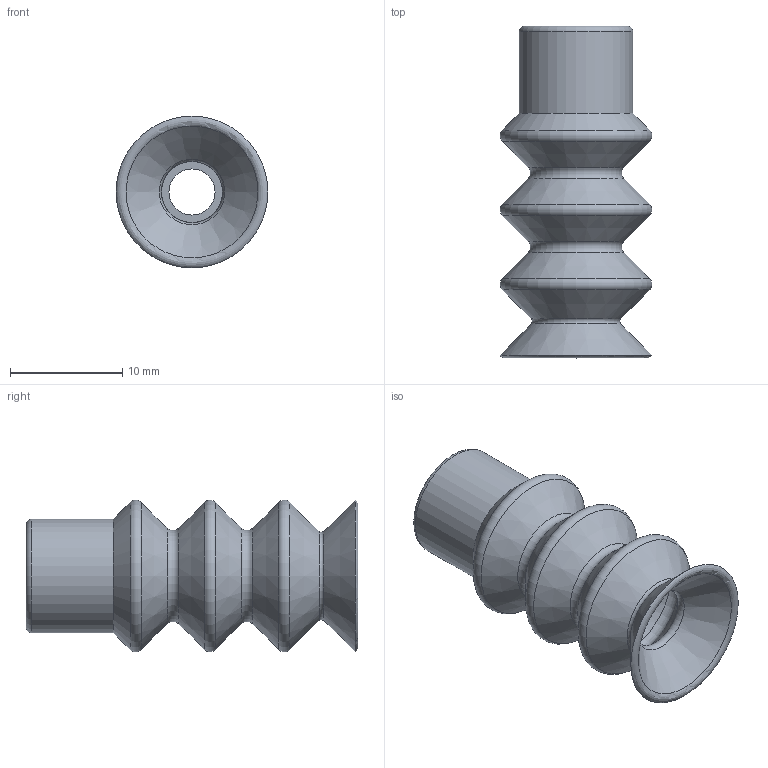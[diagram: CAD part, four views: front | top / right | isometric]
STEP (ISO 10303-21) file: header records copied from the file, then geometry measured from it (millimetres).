
FILE_DESCRIPTION (( 'STEP AP214' ), '1' );
FILE_NAME ('35B.014.002.STEP', '2025-10-20T14:32:32', ( '' ), ( '' ), 'SwSTEP 2.0', 'SolidWorks 2025', '' );
FILE_SCHEMA (( 'AUTOMOTIVE_DESIGN' ));
Length unit declared in the file: millimetre
Products named in the file (1): 35B.014.002
Bounding box: 13.5 x 29.5 x 13.5 mm (x, y, z)
Volume: 1377.1 mm3; surface area: 2216.7 mm2
Topology: 1 solids, 1 shells, 32 faces, 64 edges, 34 vertices
Faces by surface type: cone 14, torus 14, plane 2, cylinder 2
Full cylindrical faces by diameter (mm): 4.1 x1, 10.1 x1
Entity records: 701 total; most frequent: CARTESIAN_POINT 130, DIRECTION 128, ORIENTED_EDGE 64, EDGE_LOOP 64, AXIS2_PLACEMENT_3D 64, FACE_OUTER_BOUND 48, ADVANCED_FACE 32, VERTEX_POINT 32
